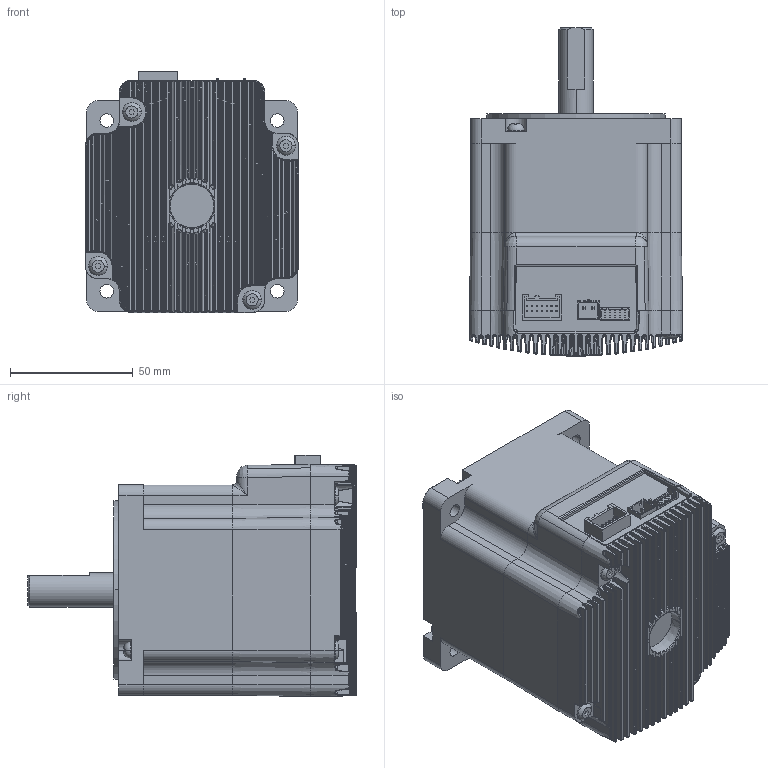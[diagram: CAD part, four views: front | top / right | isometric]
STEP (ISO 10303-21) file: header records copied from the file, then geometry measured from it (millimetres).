
FILE_DESCRIPTION(('MDrive34Plus Single Stack'),'1');
FILE_NAME('MDrive34Plus Single Stack.stp',' ',('Kubotek KeyCreator 7.0.1'),('Intelligent Motion Systems, Inc., Paul Bordua, C.I.D.'),'ACIS Interop R17','Kubotek KeyCreator V7.0.1 (6402)','Kubotek USA, Inc.');
FILE_SCHEMA(('automotive_design'));
Length unit declared in the file: inch
Products named in the file (1): New 3D Block[1]
Bounding box: 86.96 x 133.86 x 98.34 mm (x, y, z)
Volume: 644910.5 mm3; surface area: 74346.9 mm2
Topology: 1 solids, 1 shells, 1697 faces, 4084 edges, 2426 vertices
Faces by surface type: cylinder 582, plane 435, bspline 416, sphere 132, cone 83, torus 49
Entity records: 138943 total; most frequent: CARTESIAN_POINT 51160, PRESENTATION_STYLE_ASSIGNMENT 9699, COLOUR_RGB 9699, STYLED_ITEM 8199, ORIENTED_EDGE 8150, DIRECTION 6227, CURVE_STYLE 5575, DRAUGHTING_PRE_DEFINED_CURVE_FONT 5497
